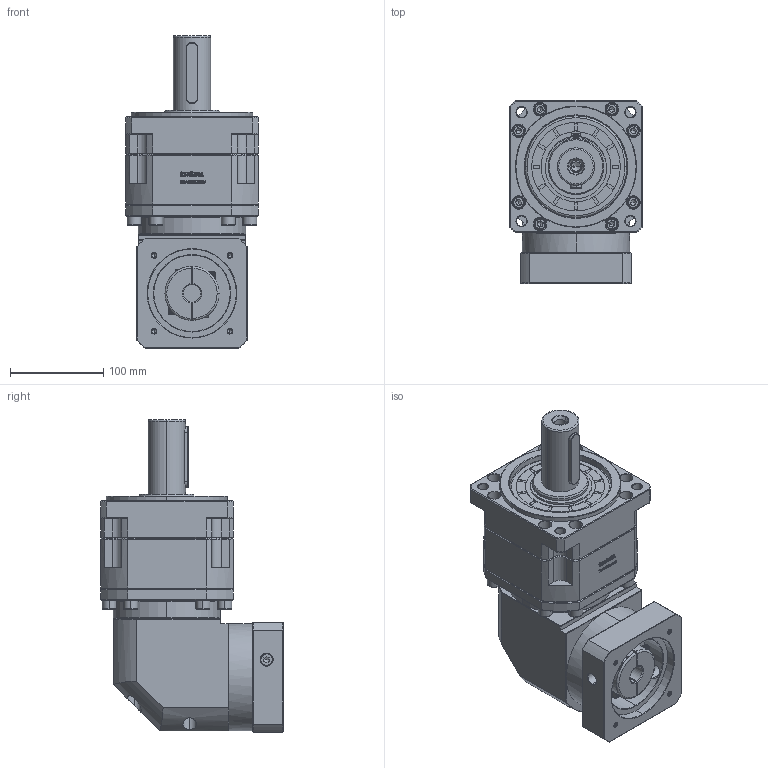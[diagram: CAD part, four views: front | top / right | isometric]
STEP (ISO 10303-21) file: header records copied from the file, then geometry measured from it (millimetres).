
FILE_DESCRIPTION (( 'STEP AP214' ), '1' );
FILE_NAME ('ZBR142A-D40-L2-19-95-115-M6.step', '2023-03-20T04:10:34', ( '' ), ( '' ), 'SwSTEP 2.0', 'SolidWorks 2016', '' );
FILE_SCHEMA (( 'AUTOMOTIVE_DESIGN' ));
Length unit declared in the file: millimetre
Products named in the file (1): ZBR142A-D40-L2-19-95-115-M6
Bounding box: 142 x 195.9 x 335.2 mm (x, y, z)
Volume: 4297585.3 mm3; surface area: 309327.4 mm2
Topology: 6 solids, 6 shells, 3179 faces, 8382 edges, 5370 vertices
Faces by surface type: plane 1651, bspline 596, cylinder 487, cone 399, torus 46
Entity records: 171137 total; most frequent: CARTESIAN_POINT 62212, ORIENTED_EDGE 16656, DIRECTION 13049, EDGE_CURVE 8328, VECTOR 5571, LINE 5571, VERTEX_POINT 5370, AXIS2_PLACEMENT_3D 3739
